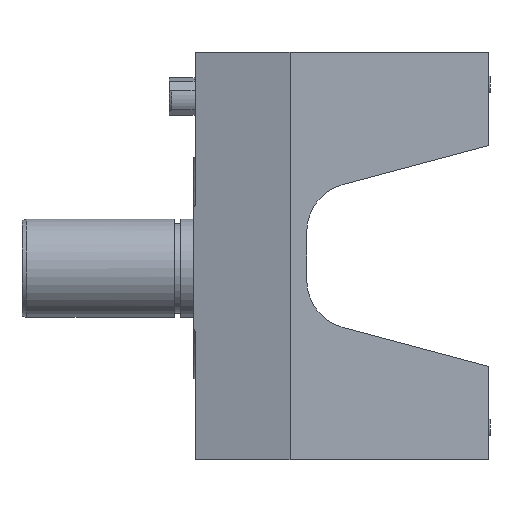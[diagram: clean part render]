
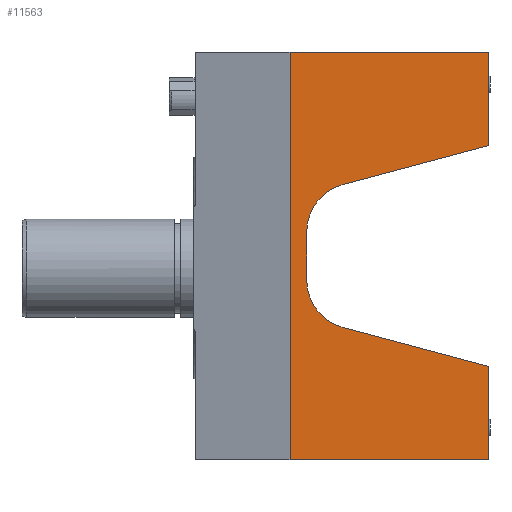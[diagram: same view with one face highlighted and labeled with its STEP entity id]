
A CAD part, front view. The second image highlights one B-rep face of the part: STEP entity #11563.
In plain terms, the highlighted planar face has unit normal (0, -1, 0).
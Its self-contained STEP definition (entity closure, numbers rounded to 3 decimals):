
#5344=CIRCLE('',#10980,20.);
#5345=CIRCLE('',#10981,20.);
#5501=ORIENTED_EDGE('',*,*,#7516,.T.);
#5502=ORIENTED_EDGE('',*,*,#7517,.T.);
#5503=ORIENTED_EDGE('',*,*,#7518,.F.);
#5504=ORIENTED_EDGE('',*,*,#7519,.F.);
#5505=ORIENTED_EDGE('',*,*,#7520,.F.);
#5506=ORIENTED_EDGE('',*,*,#7521,.F.);
#5507=ORIENTED_EDGE('',*,*,#7522,.F.);
#5508=ORIENTED_EDGE('',*,*,#7510,.T.);
#5509=ORIENTED_EDGE('',*,*,#7487,.F.);
#5510=ORIENTED_EDGE('',*,*,#7523,.F.);
#6484=VECTOR('',#8605,1.);
#6501=VECTOR('',#8648,1.);
#6505=VECTOR('',#8658,1.);
#6506=VECTOR('',#8659,1.);
#6507=VECTOR('',#8660,1.);
#6508=VECTOR('',#8663,1.);
#6509=VECTOR('',#8666,1.);
#6510=VECTOR('',#8667,1.);
#6806=LINE('',#9769,#6484);
#6823=LINE('',#9814,#6501);
#6827=LINE('',#9826,#6505);
#6828=LINE('',#9828,#6506);
#6829=LINE('',#9830,#6507);
#6830=LINE('',#9834,#6508);
#6831=LINE('',#9837,#6509);
#6832=LINE('',#9838,#6510);
#7127=VERTEX_POINT('',#9766);
#7128=VERTEX_POINT('',#9768);
#7143=VERTEX_POINT('',#9813);
#7147=VERTEX_POINT('',#9824);
#7148=VERTEX_POINT('',#9825);
#7149=VERTEX_POINT('',#9827);
#7150=VERTEX_POINT('',#9829);
#7151=VERTEX_POINT('',#9831);
#7152=VERTEX_POINT('',#9833);
#7153=VERTEX_POINT('',#9835);
#7487=EDGE_CURVE('',#7127,#7128,#6806,.T.);
#7510=EDGE_CURVE('',#7143,#7128,#6823,.T.);
#7516=EDGE_CURVE('',#7147,#7148,#6827,.T.);
#7517=EDGE_CURVE('',#7148,#7149,#6828,.T.);
#7518=EDGE_CURVE('',#7150,#7149,#6829,.T.);
#7519=EDGE_CURVE('',#7151,#7150,#5344,.T.);
#7520=EDGE_CURVE('',#7152,#7151,#6830,.T.);
#7521=EDGE_CURVE('',#7153,#7152,#5345,.T.);
#7522=EDGE_CURVE('',#7143,#7153,#6831,.T.);
#7523=EDGE_CURVE('',#7147,#7127,#6832,.T.);
#8003=EDGE_LOOP('',(#5501,#5502,#5503,#5504,#5505,#5506,#5507,#5508,#5509,
#5510));
#8300=FACE_BOUND('',#8003,.T.);
#8605=DIRECTION('',(80.813,0.,0.));
#8648=DIRECTION('',(0.,0.,38.));
#8656=DIRECTION('',(0.,-1.,0.));
#8657=DIRECTION('',(-1.,0.,0.));
#8658=DIRECTION('',(80.813,0.,0.));
#8659=DIRECTION('',(0.,0.,38.));
#8660=DIRECTION('',(59.176,0.,-15.856));
#8661=DIRECTION('',(0.,-1.,0.));
#8662=DIRECTION('',(-20.,0.,0.));
#8663=DIRECTION('',(0.,0.,-19.65));
#8664=DIRECTION('',(0.,-1.,0.));
#8665=DIRECTION('',(-20.,0.,0.));
#8666=DIRECTION('',(-59.176,0.,-15.856));
#8667=DIRECTION('',(0.,0.,166.));
#9766=CARTESIAN_POINT('',(39.187,-48.,88.));
#9768=CARTESIAN_POINT('',(120.,-48.,88.));
#9769=CARTESIAN_POINT('',(39.187,-48.,88.));
#9813=CARTESIAN_POINT('',(120.,-48.,50.));
#9814=CARTESIAN_POINT('',(120.,-48.,50.));
#9823=CARTESIAN_POINT('',(0.,-48.,88.));
#9824=CARTESIAN_POINT('',(39.187,-48.,-78.));
#9825=CARTESIAN_POINT('',(120.,-48.,-78.));
#9826=CARTESIAN_POINT('',(39.187,-48.,-78.));
#9827=CARTESIAN_POINT('',(120.,-48.,-40.));
#9828=CARTESIAN_POINT('',(120.,-48.,-78.));
#9829=CARTESIAN_POINT('',(60.824,-48.,-24.144));
#9830=CARTESIAN_POINT('',(60.824,-48.,-24.144));
#9831=CARTESIAN_POINT('',(46.,-48.,-4.825));
#9832=CARTESIAN_POINT('',(66.,-48.,-4.825));
#9833=CARTESIAN_POINT('',(46.,-48.,14.825));
#9834=CARTESIAN_POINT('',(46.,-48.,14.825));
#9835=CARTESIAN_POINT('',(60.824,-48.,34.144));
#9836=CARTESIAN_POINT('',(66.,-48.,14.825));
#9837=CARTESIAN_POINT('',(120.,-48.,50.));
#9838=CARTESIAN_POINT('',(39.187,-48.,-78.));
#10979=AXIS2_PLACEMENT_3D('',#9823,#8656,#8657);
#10980=AXIS2_PLACEMENT_3D('',#9832,#8661,#8662);
#10981=AXIS2_PLACEMENT_3D('',#9836,#8664,#8665);
#11384=PLANE('',#10979);
#11563=ADVANCED_FACE('',(#8300),#11384,.T.);
